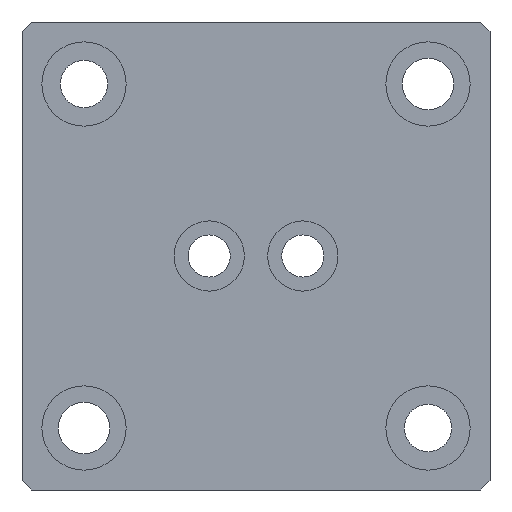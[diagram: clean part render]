
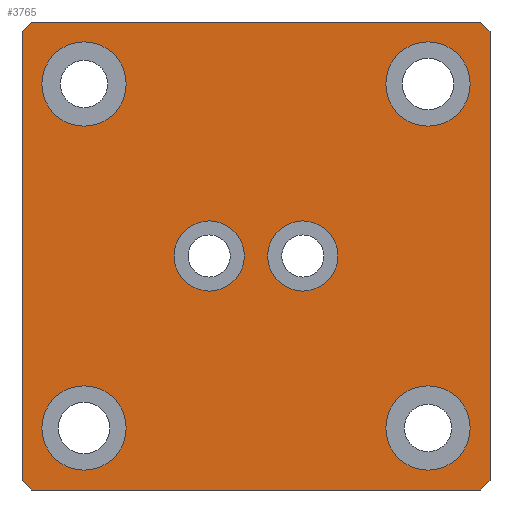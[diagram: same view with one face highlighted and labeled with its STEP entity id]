
A CAD part, front view. The second image highlights one B-rep face of the part: STEP entity #3765.
In plain terms, the highlighted planar face has unit normal (0, -1, 0).
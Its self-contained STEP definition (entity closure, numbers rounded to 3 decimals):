
#36=CIRCLE('',#3868,9.);
#37=CIRCLE('',#3869,9.);
#41=CIRCLE('',#3876,9.);
#42=CIRCLE('',#3877,9.);
#46=CIRCLE('',#3884,9.);
#47=CIRCLE('',#3885,9.);
#51=CIRCLE('',#3892,9.);
#52=CIRCLE('',#3893,9.);
#56=CIRCLE('',#3900,7.5);
#57=CIRCLE('',#3901,7.5);
#61=CIRCLE('',#3908,7.5);
#62=CIRCLE('',#3909,7.5);
#91=FACE_BOUND('',#843,.T.);
#92=FACE_BOUND('',#844,.T.);
#93=FACE_BOUND('',#845,.T.);
#94=FACE_BOUND('',#846,.T.);
#95=FACE_BOUND('',#847,.T.);
#96=FACE_BOUND('',#848,.T.);
#611=FACE_OUTER_BOUND('',#842,.T.);
#842=EDGE_LOOP('',(#3456,#3457,#3458,#3459,#3460,#3461,#3462,#3463));
#843=EDGE_LOOP('',(#3464,#3465));
#844=EDGE_LOOP('',(#3466,#3467));
#845=EDGE_LOOP('',(#3468,#3469));
#846=EDGE_LOOP('',(#3470,#3471));
#847=EDGE_LOOP('',(#3472,#3473));
#848=EDGE_LOOP('',(#3474,#3475));
#1139=LINE('',#6943,#1444);
#1142=LINE('',#6948,#1447);
#1144=LINE('',#6954,#1449);
#1146=LINE('',#6958,#1451);
#1148=LINE('',#6962,#1453);
#1151=LINE('',#6967,#1456);
#1152=LINE('',#6969,#1457);
#1153=LINE('',#6971,#1458);
#1444=VECTOR('',#4465,10.);
#1447=VECTOR('',#4470,10.);
#1449=VECTOR('',#4476,10.);
#1451=VECTOR('',#4480,10.);
#1453=VECTOR('',#4484,10.);
#1456=VECTOR('',#4489,10.);
#1457=VECTOR('',#4492,10.);
#1458=VECTOR('',#4495,10.);
#1794=VERTEX_POINT('',#6857);
#1795=VERTEX_POINT('',#6858);
#1799=VERTEX_POINT('',#6872);
#1800=VERTEX_POINT('',#6873);
#1804=VERTEX_POINT('',#6887);
#1805=VERTEX_POINT('',#6888);
#1809=VERTEX_POINT('',#6902);
#1810=VERTEX_POINT('',#6903);
#1814=VERTEX_POINT('',#6917);
#1815=VERTEX_POINT('',#6918);
#1819=VERTEX_POINT('',#6932);
#1820=VERTEX_POINT('',#6933);
#1821=VERTEX_POINT('',#6940);
#1822=VERTEX_POINT('',#6942);
#1823=VERTEX_POINT('',#6946);
#1824=VERTEX_POINT('',#6951);
#1825=VERTEX_POINT('',#6953);
#1826=VERTEX_POINT('',#6957);
#1827=VERTEX_POINT('',#6961);
#1828=VERTEX_POINT('',#6965);
#2323=EDGE_CURVE('',#1794,#1795,#36,.T.);
#2324=EDGE_CURVE('',#1795,#1794,#37,.T.);
#2330=EDGE_CURVE('',#1799,#1800,#41,.T.);
#2331=EDGE_CURVE('',#1800,#1799,#42,.T.);
#2337=EDGE_CURVE('',#1804,#1805,#46,.T.);
#2338=EDGE_CURVE('',#1805,#1804,#47,.T.);
#2344=EDGE_CURVE('',#1809,#1810,#51,.T.);
#2345=EDGE_CURVE('',#1810,#1809,#52,.T.);
#2351=EDGE_CURVE('',#1814,#1815,#56,.T.);
#2352=EDGE_CURVE('',#1815,#1814,#57,.T.);
#2358=EDGE_CURVE('',#1819,#1820,#61,.T.);
#2359=EDGE_CURVE('',#1820,#1819,#62,.T.);
#2363=EDGE_CURVE('',#1821,#1822,#1139,.T.);
#2366=EDGE_CURVE('',#1821,#1823,#1142,.T.);
#2368=EDGE_CURVE('',#1824,#1825,#1144,.T.);
#2370=EDGE_CURVE('',#1826,#1825,#1146,.T.);
#2372=EDGE_CURVE('',#1826,#1827,#1148,.T.);
#2375=EDGE_CURVE('',#1828,#1823,#1151,.T.);
#2376=EDGE_CURVE('',#1828,#1827,#1152,.T.);
#2377=EDGE_CURVE('',#1824,#1822,#1153,.T.);
#3456=ORIENTED_EDGE('',*,*,#2363,.F.);
#3457=ORIENTED_EDGE('',*,*,#2366,.T.);
#3458=ORIENTED_EDGE('',*,*,#2375,.F.);
#3459=ORIENTED_EDGE('',*,*,#2376,.T.);
#3460=ORIENTED_EDGE('',*,*,#2372,.F.);
#3461=ORIENTED_EDGE('',*,*,#2370,.T.);
#3462=ORIENTED_EDGE('',*,*,#2368,.F.);
#3463=ORIENTED_EDGE('',*,*,#2377,.T.);
#3464=ORIENTED_EDGE('',*,*,#2323,.T.);
#3465=ORIENTED_EDGE('',*,*,#2324,.T.);
#3466=ORIENTED_EDGE('',*,*,#2330,.T.);
#3467=ORIENTED_EDGE('',*,*,#2331,.T.);
#3468=ORIENTED_EDGE('',*,*,#2337,.T.);
#3469=ORIENTED_EDGE('',*,*,#2338,.T.);
#3470=ORIENTED_EDGE('',*,*,#2344,.T.);
#3471=ORIENTED_EDGE('',*,*,#2345,.T.);
#3472=ORIENTED_EDGE('',*,*,#2351,.T.);
#3473=ORIENTED_EDGE('',*,*,#2352,.T.);
#3474=ORIENTED_EDGE('',*,*,#2358,.T.);
#3475=ORIENTED_EDGE('',*,*,#2359,.T.);
#3562=PLANE('',#3920);
#3765=ADVANCED_FACE('',(#611,#91,#92,#93,#94,#95,#96),#3562,.F.);
#3868=AXIS2_PLACEMENT_3D('',#6859,#4364,#4365);
#3869=AXIS2_PLACEMENT_3D('',#6860,#4366,#4367);
#3876=AXIS2_PLACEMENT_3D('',#6874,#4382,#4383);
#3877=AXIS2_PLACEMENT_3D('',#6875,#4384,#4385);
#3884=AXIS2_PLACEMENT_3D('',#6889,#4400,#4401);
#3885=AXIS2_PLACEMENT_3D('',#6890,#4402,#4403);
#3892=AXIS2_PLACEMENT_3D('',#6904,#4418,#4419);
#3893=AXIS2_PLACEMENT_3D('',#6905,#4420,#4421);
#3900=AXIS2_PLACEMENT_3D('',#6919,#4436,#4437);
#3901=AXIS2_PLACEMENT_3D('',#6920,#4438,#4439);
#3908=AXIS2_PLACEMENT_3D('',#6934,#4454,#4455);
#3909=AXIS2_PLACEMENT_3D('',#6935,#4456,#4457);
#3920=AXIS2_PLACEMENT_3D('',#6972,#4496,#4497);
#4364=DIRECTION('center_axis',(0.,1.,0.));
#4365=DIRECTION('ref_axis',(-1.,0.,0.));
#4366=DIRECTION('center_axis',(0.,1.,0.));
#4367=DIRECTION('ref_axis',(-1.,0.,0.));
#4382=DIRECTION('center_axis',(0.,1.,0.));
#4383=DIRECTION('ref_axis',(-1.,0.,0.));
#4384=DIRECTION('center_axis',(0.,1.,0.));
#4385=DIRECTION('ref_axis',(-1.,0.,0.));
#4400=DIRECTION('center_axis',(0.,1.,0.));
#4401=DIRECTION('ref_axis',(-1.,0.,0.));
#4402=DIRECTION('center_axis',(0.,1.,0.));
#4403=DIRECTION('ref_axis',(-1.,0.,0.));
#4418=DIRECTION('center_axis',(0.,1.,0.));
#4419=DIRECTION('ref_axis',(-1.,0.,0.));
#4420=DIRECTION('center_axis',(0.,1.,0.));
#4421=DIRECTION('ref_axis',(-1.,0.,0.));
#4436=DIRECTION('center_axis',(0.,1.,0.));
#4437=DIRECTION('ref_axis',(-1.,0.,0.));
#4438=DIRECTION('center_axis',(0.,1.,0.));
#4439=DIRECTION('ref_axis',(-1.,0.,0.));
#4454=DIRECTION('center_axis',(0.,1.,0.));
#4455=DIRECTION('ref_axis',(-1.,0.,0.));
#4456=DIRECTION('center_axis',(0.,1.,0.));
#4457=DIRECTION('ref_axis',(-1.,0.,0.));
#4465=DIRECTION('',(0.707,0.,-0.707));
#4470=DIRECTION('',(-1.,0.,0.));
#4476=DIRECTION('',(-0.707,0.,-0.707));
#4480=DIRECTION('',(1.,0.,0.));
#4484=DIRECTION('',(-0.707,0.,0.707));
#4489=DIRECTION('',(0.707,0.,0.707));
#4492=DIRECTION('',(0.,0.,-1.));
#4495=DIRECTION('',(0.,0.,1.));
#4496=DIRECTION('center_axis',(0.,1.,0.));
#4497=DIRECTION('ref_axis',(0.,0.,1.));
#6857=CARTESIAN_POINT('',(-95.75,0.,-86.75));
#6858=CARTESIAN_POINT('',(-77.75,0.,-86.75));
#6859=CARTESIAN_POINT('Origin',(-86.75,0.,-86.75));
#6860=CARTESIAN_POINT('Origin',(-86.75,0.,-86.75));
#6872=CARTESIAN_POINT('',(-22.25,0.,-13.25));
#6873=CARTESIAN_POINT('',(-4.25,0.,-13.25));
#6874=CARTESIAN_POINT('Origin',(-13.25,0.,-13.25));
#6875=CARTESIAN_POINT('Origin',(-13.25,0.,-13.25));
#6887=CARTESIAN_POINT('',(-22.25,0.,-86.75));
#6888=CARTESIAN_POINT('',(-4.25,0.,-86.75));
#6889=CARTESIAN_POINT('Origin',(-13.25,0.,-86.75));
#6890=CARTESIAN_POINT('Origin',(-13.25,0.,-86.75));
#6902=CARTESIAN_POINT('',(-95.75,0.,-13.25));
#6903=CARTESIAN_POINT('',(-77.75,0.,-13.25));
#6904=CARTESIAN_POINT('Origin',(-86.75,0.,-13.25));
#6905=CARTESIAN_POINT('Origin',(-86.75,0.,-13.25));
#6917=CARTESIAN_POINT('',(-67.5,0.,-50.));
#6918=CARTESIAN_POINT('',(-52.5,0.,-50.));
#6919=CARTESIAN_POINT('Origin',(-60.,0.,-50.));
#6920=CARTESIAN_POINT('Origin',(-60.,0.,-50.));
#6932=CARTESIAN_POINT('',(-47.5,0.,-50.));
#6933=CARTESIAN_POINT('',(-32.5,0.,-50.));
#6934=CARTESIAN_POINT('Origin',(-40.,0.,-50.));
#6935=CARTESIAN_POINT('Origin',(-40.,0.,-50.));
#6940=CARTESIAN_POINT('',(-2.,0.,0.));
#6942=CARTESIAN_POINT('',(0.,0.,-2.));
#6943=CARTESIAN_POINT('',(-1.,0.,-1.));
#6946=CARTESIAN_POINT('',(-98.,0.,0.));
#6948=CARTESIAN_POINT('',(0.,0.,0.));
#6951=CARTESIAN_POINT('',(0.,0.,-98.));
#6953=CARTESIAN_POINT('',(-2.,0.,-100.));
#6954=CARTESIAN_POINT('',(-1.,0.,-99.));
#6957=CARTESIAN_POINT('',(-98.,0.,-100.));
#6958=CARTESIAN_POINT('',(-100.,0.,-100.));
#6961=CARTESIAN_POINT('',(-100.,0.,-98.));
#6962=CARTESIAN_POINT('',(-99.,0.,-99.));
#6965=CARTESIAN_POINT('',(-100.,0.,-2.));
#6967=CARTESIAN_POINT('',(-99.,0.,-1.));
#6969=CARTESIAN_POINT('',(-100.,0.,0.));
#6971=CARTESIAN_POINT('',(0.,0.,-100.));
#6972=CARTESIAN_POINT('Origin',(-50.,0.,-50.));
